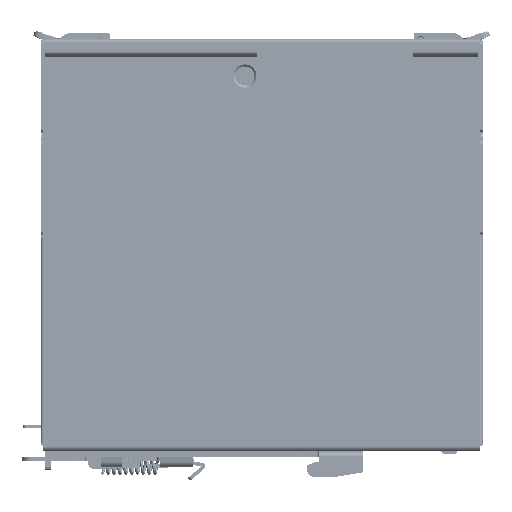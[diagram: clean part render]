
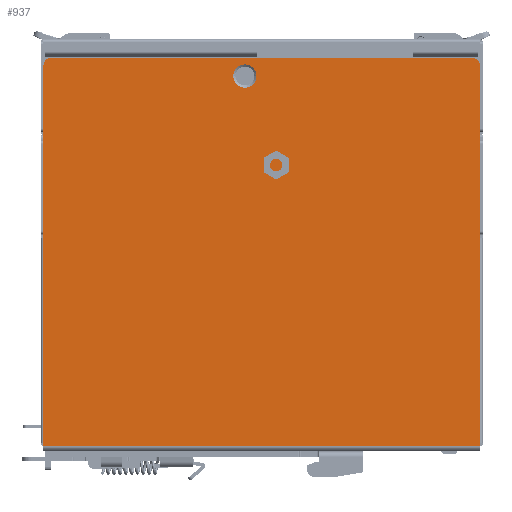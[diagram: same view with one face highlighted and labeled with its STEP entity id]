
A CAD part, left-side view. The second image highlights one B-rep face of the part: STEP entity #937.
In plain terms, the highlighted planar face has unit normal (-1, 0, 0).
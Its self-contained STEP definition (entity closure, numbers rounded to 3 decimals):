
#18=CARTESIAN_POINT('',(0.,2.,-6.5));
#19=DIRECTION('',(1.,0.,0.));
#20=DIRECTION('',(0.,0.,1.));
#21=AXIS2_PLACEMENT_3D('',#18,#19,#20);
#23=DIRECTION('',(0.,0.,1.));
#24=VECTOR('',#23,106.4);
#25=CARTESIAN_POINT('',(0.,122.,-112.9));
#26=LINE('',#25,#24);
#27=CARTESIAN_POINT('',(0.,120.,-6.5));
#28=DIRECTION('',(1.,0.,0.));
#29=DIRECTION('',(0.,1.,0.));
#30=AXIS2_PLACEMENT_3D('',#27,#28,#29);
#32=CARTESIAN_POINT('',(0.,65.7,-9.5));
#33=DIRECTION('',(-1.,0.,0.));
#34=DIRECTION('',(0.,-1.,0.));
#35=AXIS2_PLACEMENT_3D('',#32,#33,#34);
#37=CARTESIAN_POINT('',(0.,65.7,-9.5));
#38=DIRECTION('',(-1.,0.,0.));
#39=DIRECTION('',(0.,0.,1.));
#40=AXIS2_PLACEMENT_3D('',#37,#38,#39);
#42=CARTESIAN_POINT('',(0.,65.7,-9.5));
#43=DIRECTION('',(-1.,0.,0.));
#44=DIRECTION('',(0.,1.,0.));
#45=AXIS2_PLACEMENT_3D('',#42,#43,#44);
#47=CARTESIAN_POINT('',(0.,65.7,-9.5));
#48=DIRECTION('',(-1.,0.,0.));
#49=DIRECTION('',(0.,0.,-1.));
#50=AXIS2_PLACEMENT_3D('',#47,#48,#49);
#60=DIRECTION('',(0.,1.,0.));
#61=VECTOR('',#60,118.);
#62=CARTESIAN_POINT('',(0.,2.,-4.5));
#63=LINE('',#62,#61);
#89=DIRECTION('',(0.,-1.,0.));
#90=VECTOR('',#89,122.);
#91=CARTESIAN_POINT('',(0.,122.,-112.9));
#92=LINE('',#91,#90);
#98=DIRECTION('',(0.,0.,1.));
#99=VECTOR('',#98,106.4);
#100=CARTESIAN_POINT('',(0.,0.,-112.9));
#101=LINE('',#100,#99);
#704=CARTESIAN_POINT('',(0.,2.,-4.5));
#705=CARTESIAN_POINT('',(0.,0.,-6.5));
#706=VERTEX_POINT('',#704);
#707=VERTEX_POINT('',#705);
#708=CARTESIAN_POINT('',(0.,0.,-112.9));
#709=VERTEX_POINT('',#708);
#710=CARTESIAN_POINT('',(0.,122.,-112.9));
#711=VERTEX_POINT('',#710);
#712=CARTESIAN_POINT('',(0.,122.,-6.5));
#713=VERTEX_POINT('',#712);
#714=CARTESIAN_POINT('',(0.,120.,-4.5));
#715=VERTEX_POINT('',#714);
#716=CARTESIAN_POINT('',(0.,62.45,-9.5));
#717=CARTESIAN_POINT('',(0.,65.7,-6.25));
#718=VERTEX_POINT('',#716);
#719=VERTEX_POINT('',#717);
#720=CARTESIAN_POINT('',(0.,68.95,-9.5));
#721=VERTEX_POINT('',#720);
#722=CARTESIAN_POINT('',(0.,65.7,-12.75));
#723=VERTEX_POINT('',#722);
#908=CARTESIAN_POINT('',(0.,0.,-114.4));
#909=DIRECTION('',(-1.,0.,0.));
#910=DIRECTION('',(0.,0.,1.));
#911=AXIS2_PLACEMENT_3D('',#908,#909,#910);
#912=PLANE('',#911);
#914=ORIENTED_EDGE('',*,*,#913,.T.);
#916=ORIENTED_EDGE('',*,*,#915,.F.);
#918=ORIENTED_EDGE('',*,*,#917,.F.);
#920=ORIENTED_EDGE('',*,*,#919,.T.);
#922=ORIENTED_EDGE('',*,*,#921,.T.);
#924=ORIENTED_EDGE('',*,*,#923,.F.);
#925=EDGE_LOOP('',(#914,#916,#918,#920,#922,#924));
#926=FACE_OUTER_BOUND('',#925,.F.);
#928=ORIENTED_EDGE('',*,*,#927,.T.);
#930=ORIENTED_EDGE('',*,*,#929,.T.);
#932=ORIENTED_EDGE('',*,*,#931,.T.);
#934=ORIENTED_EDGE('',*,*,#933,.T.);
#935=EDGE_LOOP('',(#928,#930,#932,#934));
#936=FACE_BOUND('',#935,.F.);
#937=ADVANCED_FACE('',(#926,#936),#912,.T.);
#22=CIRCLE('',#21,2.);
#31=CIRCLE('',#30,2.);
#36=CIRCLE('',#35,3.25);
#41=CIRCLE('',#40,3.25);
#46=CIRCLE('',#45,3.25);
#51=CIRCLE('',#50,3.25);
#913=EDGE_CURVE('',#706,#707,#22,.T.);
#915=EDGE_CURVE('',#709,#707,#101,.T.);
#917=EDGE_CURVE('',#711,#709,#92,.T.);
#919=EDGE_CURVE('',#711,#713,#26,.T.);
#921=EDGE_CURVE('',#713,#715,#31,.T.);
#923=EDGE_CURVE('',#706,#715,#63,.T.);
#927=EDGE_CURVE('',#718,#719,#36,.T.);
#929=EDGE_CURVE('',#719,#721,#41,.T.);
#931=EDGE_CURVE('',#721,#723,#46,.T.);
#933=EDGE_CURVE('',#723,#718,#51,.T.);
